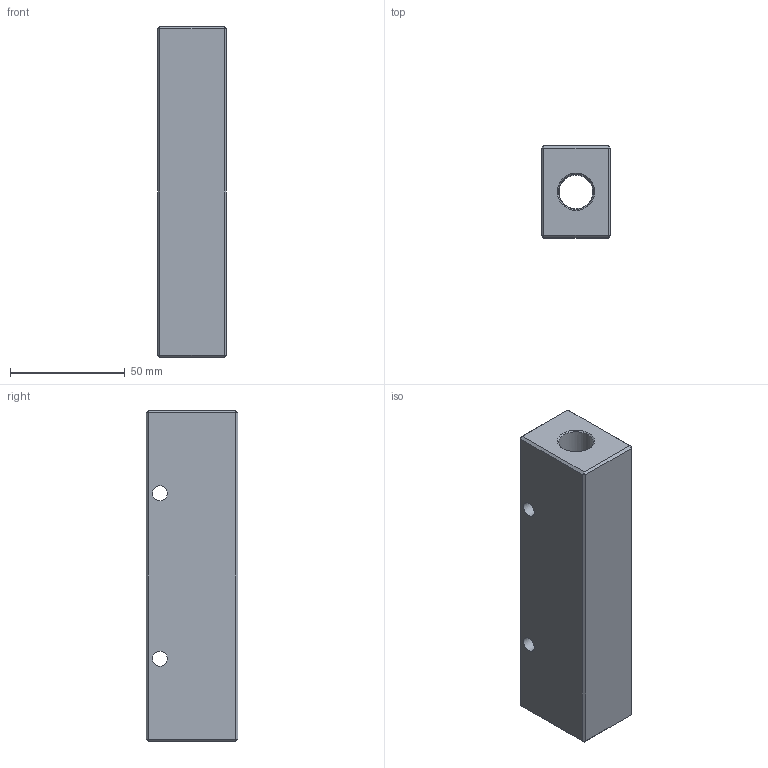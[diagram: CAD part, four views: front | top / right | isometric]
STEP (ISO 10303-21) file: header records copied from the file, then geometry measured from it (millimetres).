
FILE_DESCRIPTION(/* description */ (''),/* implementation_level */ '2;1');
FILE_NAME(/* name */ 'BXH89 2B3 08B2.stp',/* time_stamp */ '2024-11-17T14:14:47+01:00',/* author */ ('freju'),/* organization */ (''),/* preprocessor_version */ 'ST-DEVELOPER v20',/* originating_system */ 'Autodesk Inventor 2025',/* authorisation */ '');
FILE_SCHEMA (('AUTOMOTIVE_DESIGN { 1 0 10303 214 3 1 1 }'));
Length unit declared in the file: millimetre
Products named in the file (1): BXH89 2B3 08B2
Bounding box: 30 x 40 x 144 mm (x, y, z)
Volume: 139547.9 mm3; surface area: 30602.8 mm2
Topology: 1 solids, 1 shells, 43 faces, 105 edges, 62 vertices
Faces by surface type: plane 28, cylinder 9, cone 6
Full cylindrical faces by diameter (mm): 6.5 x2, 11.8 x4, 14.75 x1, 15.25 x2
Entity records: 1460 total; most frequent: CARTESIAN_POINT 379, DIRECTION 215, ORIENTED_EDGE 210, EDGE_CURVE 105, AXIS2_PLACEMENT_3D 74, LINE 67, VECTOR 67, VERTEX_POINT 62
